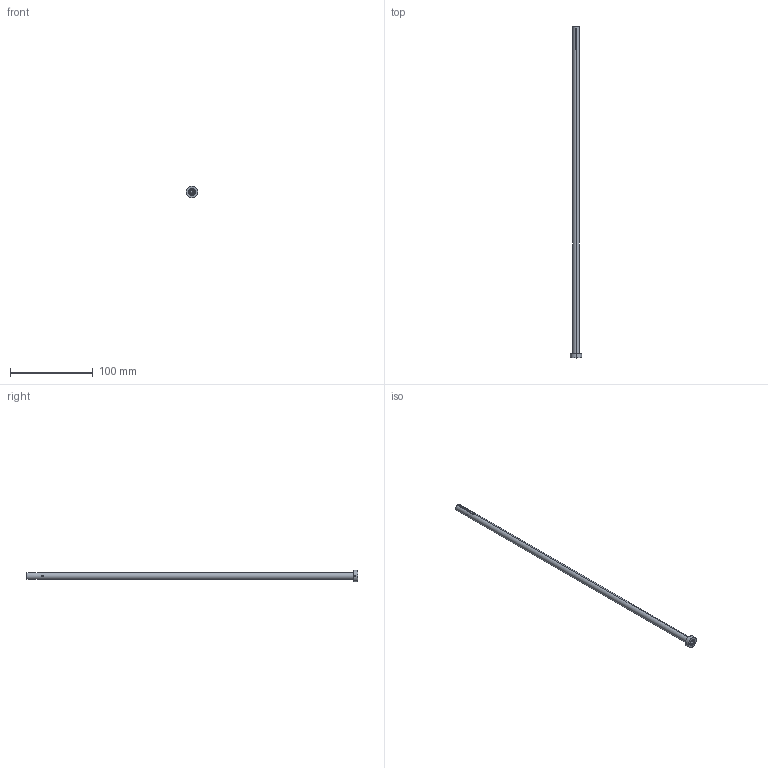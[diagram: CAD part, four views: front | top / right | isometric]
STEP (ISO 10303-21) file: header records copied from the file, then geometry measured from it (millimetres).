
FILE_DESCRIPTION (( 'STEP AP203' ), '1' );
FILE_NAME ('SGDE-808x400.STEP', '2017-01-10T15:46:53', ( 'Balzi' ), ( '' ), 'SwSTEP 2.0', 'SolidWorks 2016', '' );
FILE_SCHEMA (( 'CONFIG_CONTROL_DESIGN' ));
Length unit declared in the file: millimetre
Products named in the file (1): SGDE-808x400
Bounding box: 14 x 400.8 x 14 mm (x, y, z)
Volume: 12449.5 mm3; surface area: 17616.8 mm2
Topology: 1 solids, 1 shells, 84 faces, 234 edges, 154 vertices
Faces by surface type: cylinder 48, plane 32, cone 4
Entity records: 3313 total; most frequent: CARTESIAN_POINT 1077, ORIENTED_EDGE 468, DIRECTION 422, EDGE_CURVE 234, AXIS2_PLACEMENT_3D 155, VERTEX_POINT 154, VECTOR 112, LINE 112
